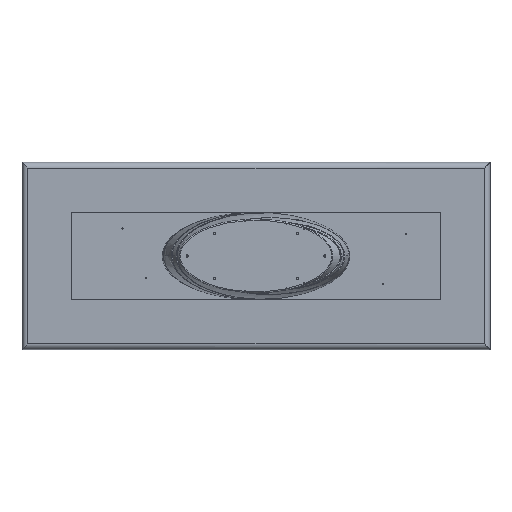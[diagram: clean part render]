
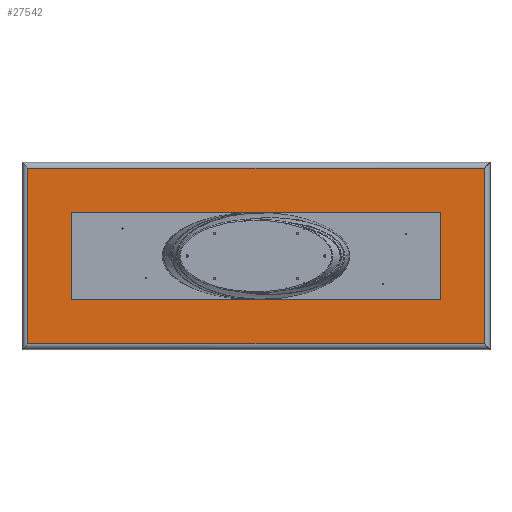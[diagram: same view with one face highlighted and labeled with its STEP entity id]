
A CAD part, front view. The second image highlights one B-rep face of the part: STEP entity #27542.
In plain terms, the highlighted planar face has unit normal (0, -1, 0).
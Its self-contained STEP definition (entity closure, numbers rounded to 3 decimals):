
#354 = AXIS2_PLACEMENT_3D ( 'NONE', #3315, #34777, #25454 ) ;
#504 = DIRECTION ( 'NONE',  ( -1., 0., 0. ) ) ;
#550 = LINE ( 'NONE', #11984, #8620 ) ;
#3315 = CARTESIAN_POINT ( 'NONE',  ( 0., 40., 0. ) ) ;
#5018 = ORIENTED_EDGE ( 'NONE', *, *, #25890, .T. ) ;
#5155 = DIRECTION ( 'NONE',  ( 1., 0., 0. ) ) ;
#6703 = VERTEX_POINT ( 'NONE', #27553 ) ;
#8156 = LINE ( 'NONE', #13408, #9346 ) ;
#8620 = VECTOR ( 'NONE', #23428, 1000. ) ;
#9346 = VECTOR ( 'NONE', #5155, 1000. ) ;
#9870 = CARTESIAN_POINT ( 'NONE',  ( 1464., 40., 564. ) ) ;
#11980 = ORIENTED_EDGE ( 'NONE', *, *, #29850, .T. ) ;
#11984 = CARTESIAN_POINT ( 'NONE',  ( -1464., 40., -600. ) ) ;
#13408 = CARTESIAN_POINT ( 'NONE',  ( 1500., 40., -564. ) ) ;
#17029 = EDGE_CURVE ( 'NONE', #33532, #35854, #550, .T. ) ;
#17694 = CARTESIAN_POINT ( 'NONE',  ( 1464., 40., 600. ) ) ;
#17856 = ORIENTED_EDGE ( 'NONE', *, *, #17029, .T. ) ;
#18321 = CARTESIAN_POINT ( 'NONE',  ( -1464., 40., -564. ) ) ;
#18698 = EDGE_LOOP ( 'NONE', ( #17856, #5018, #11980, #26162 ) ) ;
#21053 = VECTOR ( 'NONE', #26693, 1000. ) ;
#23200 = FACE_OUTER_BOUND ( 'NONE', #18698, .T. ) ;
#23382 = CARTESIAN_POINT ( 'NONE',  ( -1500., 40., 564. ) ) ;
#23428 = DIRECTION ( 'NONE',  ( 0., 0., -1. ) ) ;
#24625 = VERTEX_POINT ( 'NONE', #9870 ) ;
#25454 = DIRECTION ( 'NONE',  ( 0., 0., -1. ) ) ;
#25890 = EDGE_CURVE ( 'NONE', #35854, #6703, #8156, .T. ) ;
#26162 = ORIENTED_EDGE ( 'NONE', *, *, #27670, .T. ) ;
#26194 = LINE ( 'NONE', #23382, #36853 ) ;
#26693 = DIRECTION ( 'NONE',  ( 0., 0., 1. ) ) ;
#27542 = ADVANCED_FACE ( 'NONE', ( #23200 ), #28994, .T. ) ;
#27553 = CARTESIAN_POINT ( 'NONE',  ( 1464., 40., -564. ) ) ;
#27670 = EDGE_CURVE ( 'NONE', #24625, #33532, #26194, .T. ) ;
#28994 = PLANE ( 'NONE',  #354 ) ;
#29850 = EDGE_CURVE ( 'NONE', #6703, #24625, #32481, .T. ) ;
#31844 = CARTESIAN_POINT ( 'NONE',  ( -1464., 40., 564. ) ) ;
#32481 = LINE ( 'NONE', #17694, #21053 ) ;
#33532 = VERTEX_POINT ( 'NONE', #31844 ) ;
#34777 = DIRECTION ( 'NONE',  ( 0., -1., 0. ) ) ;
#35854 = VERTEX_POINT ( 'NONE', #18321 ) ;
#36853 = VECTOR ( 'NONE', #504, 1000. ) ;
